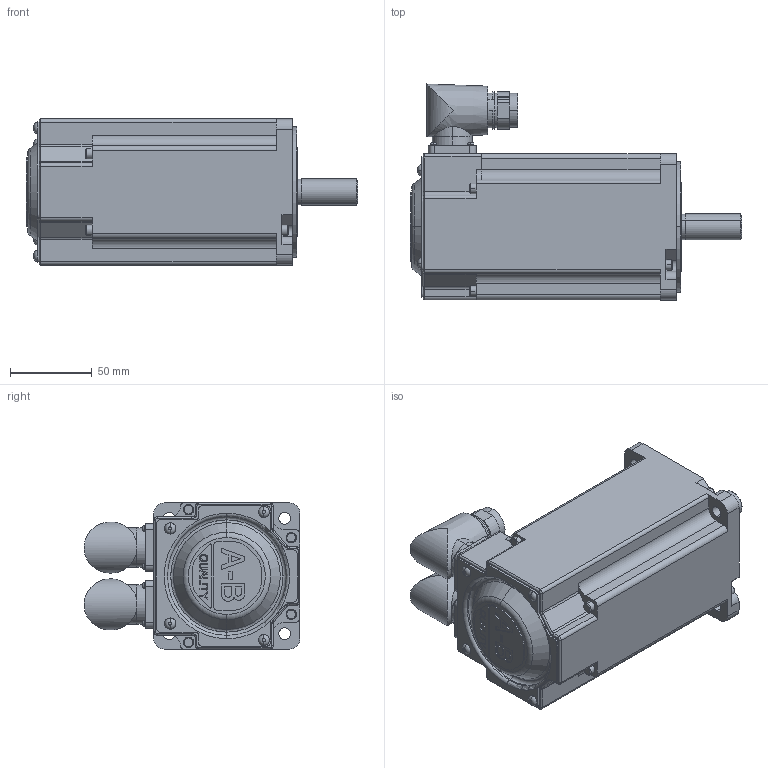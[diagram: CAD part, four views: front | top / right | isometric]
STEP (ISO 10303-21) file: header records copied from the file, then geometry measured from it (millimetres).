
FILE_DESCRIPTION (( 'STEP AP214' ), '1' );
FILE_NAME ('Rockwell Automation-MPL-x310x-xK74AA.STEP', '2015-06-16T13:19:02', ( 'Windows User' ), ( '' ), 'SwSTEP 2.0', 'SolidWorks 2015', '' );
FILE_SCHEMA (( 'AUTOMOTIVE_DESIGN' ));
Length unit declared in the file: inch
Products named in the file (5): Rockwell Automation-MPL-x310x-xK74AA_MPL-3xx-Encoder Connector; Rockwell Automation-MPL-x310x-xK74AA_MPL-3xx-Power Connector; Rockwell Automation-MPL-x310x-xK74AA_MPL-3xx-Shaft_310-keyless-BRAKE; Rockwell Automation-MPL-x310x-xK74AA_MPL-3xx-Body_310-BRAKE; Rockwell Automation-MPL-x310x-xK74AA
Assembly tree (4 placements, depth 2):
  Rockwell Automation-MPL-x310x-xK74AA
    Rockwell Automation-MPL-x310x-xK74AA_MPL-3xx-Body_310-BRAKE
    Rockwell Automation-MPL-x310x-xK74AA_MPL-3xx-Shaft_310-keyless-BRAKE
    Rockwell Automation-MPL-x310x-xK74AA_MPL-3xx-Power Connector
    Rockwell Automation-MPL-x310x-xK74AA_MPL-3xx-Encoder Connector
Bounding box: 202.82 x 132.08 x 89.41 mm (x, y, z)
Volume: 547061.5 mm3; surface area: 151565.5 mm2
Topology: 4 solids, 4 shells, 803 faces, 1972 edges, 1267 vertices
Faces by surface type: plane 341, cylinder 302, torus 90, cone 38, bspline 32
Entity records: 26685 total; most frequent: CARTESIAN_POINT 6411, DIRECTION 4234, ORIENTED_EDGE 3940, EDGE_CURVE 1970, AXIS2_PLACEMENT_3D 1588, VERTEX_POINT 1267, VECTOR 1058, LINE 1058
